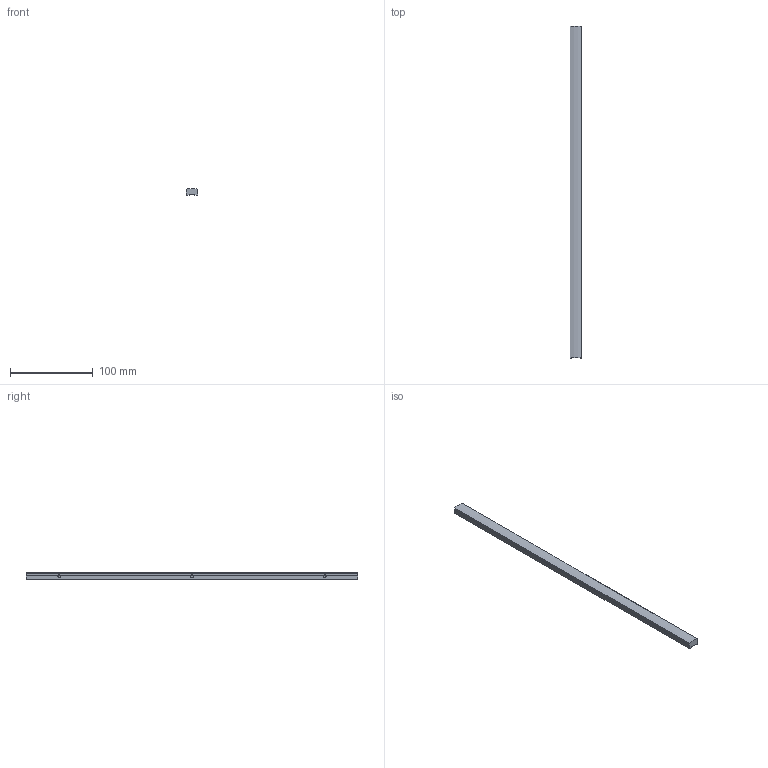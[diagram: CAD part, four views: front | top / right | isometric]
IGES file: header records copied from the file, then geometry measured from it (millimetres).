
Start section: C
Global section: file name: 8144-400.igs; native system: By Siemens PLM Incorporated; preprocessor: XPlus GENERIC/IGES 16.0.42; author: Author; organization: Title; date: 20231120.152539; units: millimetre
Bounding box: 14 x 400 x 8.42 mm (x, y, z)
Surface area: 17930.2 mm2 (no closed solid volume)
Topology: 0 solids, 0 shells, 25 faces, 150 edges, 150 vertices
Faces by surface type: bspline 25
